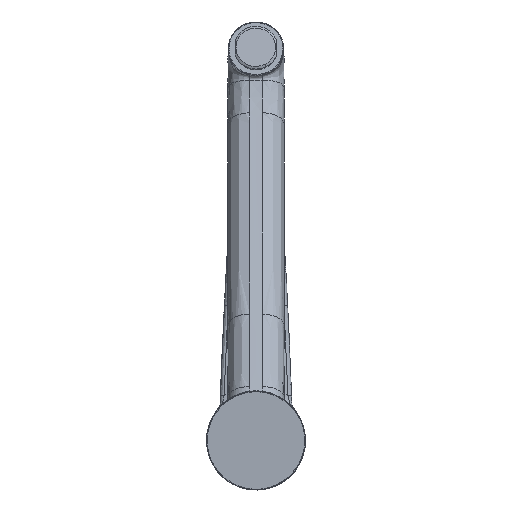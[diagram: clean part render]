
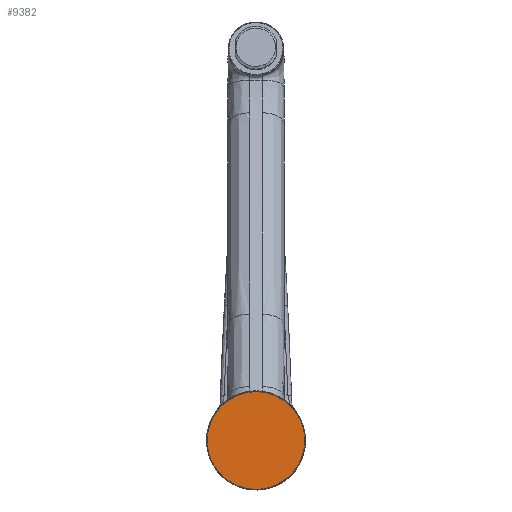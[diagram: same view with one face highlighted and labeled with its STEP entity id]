
A CAD part, front view. The second image highlights one B-rep face of the part: STEP entity #9382.
In plain terms, the highlighted planar face has unit normal (0, -1, 0).
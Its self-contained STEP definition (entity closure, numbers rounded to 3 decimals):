
#322 = AXIS2_PLACEMENT_3D ( 'NONE', #11121, #9237, #18489 ) ;
#340 = CARTESIAN_POINT ( 'NONE',  ( 25.166, -5., -8.177 ) ) ;
#1388 = EDGE_CURVE ( 'NONE', #18541, #19044, #15366, .T. ) ;
#3941 = CARTESIAN_POINT ( 'NONE',  ( 41.52, -5., 42.155 ) ) ;
#6096 = CARTESIAN_POINT ( 'NONE',  ( -25.166, -5., 8.177 ) ) ;
#6188 = EDGE_LOOP ( 'NONE', ( #10702, #7239 ) ) ;
#7239 = ORIENTED_EDGE ( 'NONE', *, *, #1388, .F. ) ;
#7727 = CARTESIAN_POINT ( 'NONE',  ( -25.166, -5., 8.177 ) ) ;
#8617 = CARTESIAN_POINT ( 'NONE',  ( 25.166, -5., -8.177 ) ) ;
#9237 = DIRECTION ( 'NONE',  ( 0., -1., 0. ) ) ;
#9382 = ADVANCED_FACE ( 'NONE', ( #20821 ), #18653, .T. ) ;
#9444 = CARTESIAN_POINT ( 'NONE',  ( 8.812, -5., -58.509 ) ) ;
#10702 = ORIENTED_EDGE ( 'NONE', *, *, #13475, .F. ) ;
#11121 = CARTESIAN_POINT ( 'NONE',  ( -22.825, -5., 7.416 ) ) ;
#11415 = CARTESIAN_POINT ( 'NONE',  ( -41.52, -5., -42.155 ) ) ;
#13342 = CARTESIAN_POINT ( 'NONE',  ( -25.166, -5., 8.177 ) ) ;
#13475 = EDGE_CURVE ( 'NONE', #19044, #18541, #19090, .T. ) ;
#15199 = CARTESIAN_POINT ( 'NONE',  ( -8.812, -5., 58.509 ) ) ;
#15366 =( BOUNDED_CURVE ( )  B_SPLINE_CURVE ( 3, ( #20708, #9444, #11415, #7727 ),
 .UNSPECIFIED., .F., .T. ) 
 B_SPLINE_CURVE_WITH_KNOTS ( ( 4, 4 ),
 ( 0.5, 1. ),
 .UNSPECIFIED. ) 
 CURVE ( )  GEOMETRIC_REPRESENTATION_ITEM ( )  RATIONAL_B_SPLINE_CURVE ( ( 1., 0.333, 0.333, 1. ) ) 
 REPRESENTATION_ITEM ( '' )  );
#18489 = DIRECTION ( 'NONE',  ( -1., 0., 0. ) ) ;
#18541 = VERTEX_POINT ( 'NONE', #8617 ) ;
#18653 = PLANE ( 'NONE',  #322 ) ;
#19044 = VERTEX_POINT ( 'NONE', #13342 ) ;
#19090 =( BOUNDED_CURVE ( )  B_SPLINE_CURVE ( 3, ( #6096, #15199, #3941, #340 ),
 .UNSPECIFIED., .F., .T. ) 
 B_SPLINE_CURVE_WITH_KNOTS ( ( 4, 4 ),
 ( 0., 0.5 ),
 .UNSPECIFIED. ) 
 CURVE ( )  GEOMETRIC_REPRESENTATION_ITEM ( )  RATIONAL_B_SPLINE_CURVE ( ( 1., 0.333, 0.333, 1. ) ) 
 REPRESENTATION_ITEM ( '' )  );
#20708 = CARTESIAN_POINT ( 'NONE',  ( 25.166, -5., -8.177 ) ) ;
#20821 = FACE_OUTER_BOUND ( 'NONE', #6188, .T. ) ;
